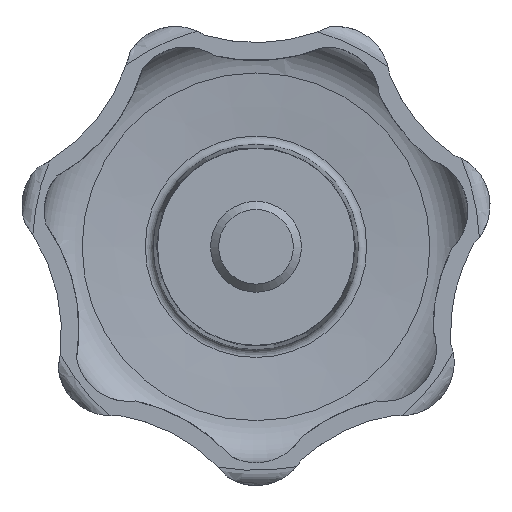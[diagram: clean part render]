
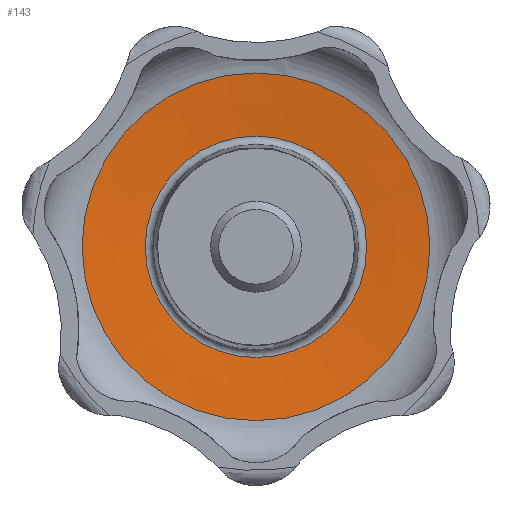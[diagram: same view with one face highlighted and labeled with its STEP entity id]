
A CAD part, front view. The second image highlights one B-rep face of the part: STEP entity #143.
In plain terms, the highlighted conical face has half-angle 85 degrees and reference radius 22.949 mm.
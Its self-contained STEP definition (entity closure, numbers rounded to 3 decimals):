
#143 = ADVANCED_FACE( '', ( #294, #295 ), #296, .F. );
#294 = FACE_BOUND( '', #452, .T. );
#295 = FACE_OUTER_BOUND( '', #453, .T. );
#296 = CONICAL_SURFACE( '', #454, 22.949, 1.484 );
#452 = EDGE_LOOP( '', ( #1018 ) );
#453 = EDGE_LOOP( '', ( #1019 ) );
#454 = AXIS2_PLACEMENT_3D( '', #1020, #1021, #1022 );
#1018 = ORIENTED_EDGE( '', *, *, #1275, .F. );
#1019 = ORIENTED_EDGE( '', *, *, #1276, .T. );
#1020 = CARTESIAN_POINT( '', ( 0., 30.177, 0. ) );
#1021 = DIRECTION( '', ( 0., -1., 0. ) );
#1022 = DIRECTION( '', ( 1., 0., 0. ) );
#1275 = EDGE_CURVE( '', #1604, #1604, #1605, .T. );
#1276 = EDGE_CURVE( '', #1606, #1606, #1607, .T. );
#1604 = VERTEX_POINT( '', #3057 );
#1605 = CIRCLE( '', #3058, 14.609 );
#1606 = VERTEX_POINT( '', #3059 );
#1607 = CIRCLE( '', #3060, 22.949 );
#3057 = CARTESIAN_POINT( '', ( 14.609, 30.907, 0. ) );
#3058 = AXIS2_PLACEMENT_3D( '', #3326, #3327, #3328 );
#3059 = CARTESIAN_POINT( '', ( 22.949, 30.177, 0. ) );
#3060 = AXIS2_PLACEMENT_3D( '', #3329, #3330, #3331 );
#3326 = CARTESIAN_POINT( '', ( 0., 30.907, 0. ) );
#3327 = DIRECTION( '', ( 0., -1., 0. ) );
#3328 = DIRECTION( '', ( 1., 0., 0. ) );
#3329 = CARTESIAN_POINT( '', ( 0., 30.177, 0. ) );
#3330 = DIRECTION( '', ( 0., -1., 0. ) );
#3331 = DIRECTION( '', ( 1., 0., 0. ) );
